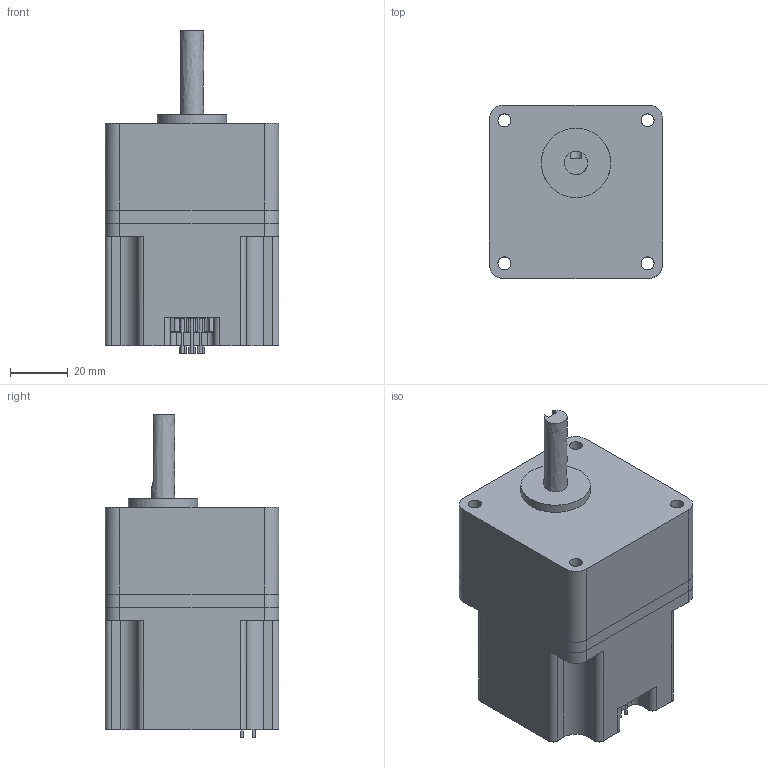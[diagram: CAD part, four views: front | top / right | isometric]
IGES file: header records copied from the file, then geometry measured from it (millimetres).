
Global section: file name: M4625-G60; native system: unknown; preprocessor: unknown; author: unknown; organization: unknown; date: 20191001.132520; units: millimetre
Bounding box: 60 x 60 x 111.5 mm (x, y, z)
Volume: 229289.1 mm3; surface area: 58429.4 mm2
Topology: 3 solids, 8 shells, 310 faces, 826 edges, 578 vertices
Faces by surface type: bspline 310
